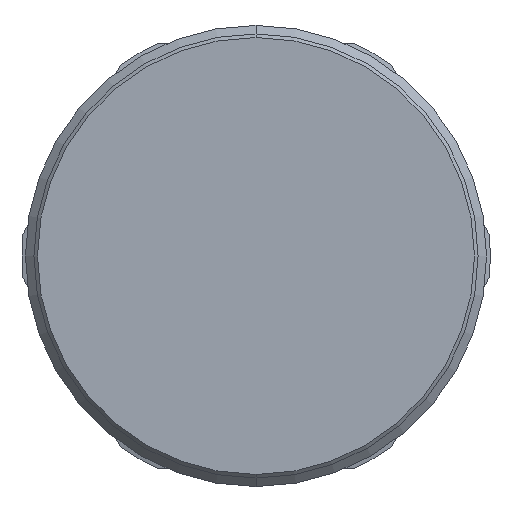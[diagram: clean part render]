
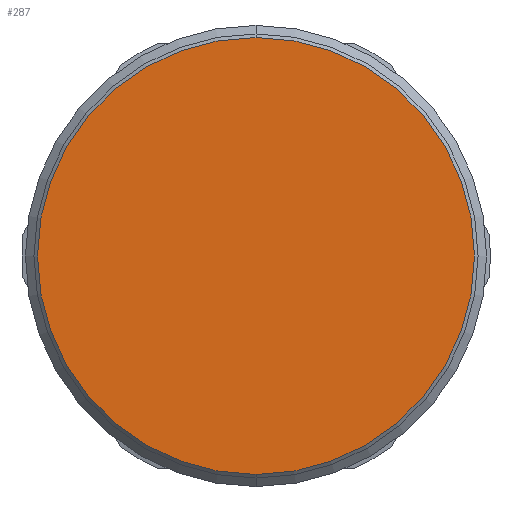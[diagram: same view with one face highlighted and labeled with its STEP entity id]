
A CAD part, front view. The second image highlights one B-rep face of the part: STEP entity #287.
In plain terms, the highlighted planar face has unit normal (0, -1, 0).
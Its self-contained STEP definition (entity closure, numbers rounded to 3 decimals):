
#262=CARTESIAN_POINT('',(0.0,-72.5,-30.8));
#263=VERTEX_POINT('',#262);
#264=CARTESIAN_POINT('',(0.0,-72.5,30.8));
#265=VERTEX_POINT('',#264);
#266=CARTESIAN_POINT('',(0.0,-72.5,0.0));
#267=DIRECTION('',(0.0,-1.0,0.0));
#268=DIRECTION('',(0.0,0.0,-1.0));
#269=AXIS2_PLACEMENT_3D('',#266,#267,#268);
#270=CIRCLE('',#269,30.8);
#271=EDGE_CURVE('no 2190',#263,#265,#270,.T.);
#272=ORIENTED_EDGE('',*,*,#271,.T.);
#273=CARTESIAN_POINT('',(0.0,-72.5,0.0));
#274=DIRECTION('',(0.0,-1.0,0.0));
#275=DIRECTION('',(0.0,0.0,-1.0));
#276=AXIS2_PLACEMENT_3D('',#273,#274,#275);
#277=CIRCLE('',#276,30.8);
#278=EDGE_CURVE('no 2194',#265,#263,#277,.T.);
#279=ORIENTED_EDGE('',*,*,#278,.T.);
#280=EDGE_LOOP('',(#272,#279));
#281=FACE_OUTER_BOUND('',#280,.T.);
#282=CARTESIAN_POINT('',(0.0,-72.5,0.0));
#283=DIRECTION('',(0.0,-1.0,0.0));
#284=DIRECTION('',(0.0,0.0,-1.0));
#285=AXIS2_PLACEMENT_3D('',#282,#283,#284);
#286=PLANE('',#285);
#287=ADVANCED_FACE('no 2181',(#281),#286,.T.);
